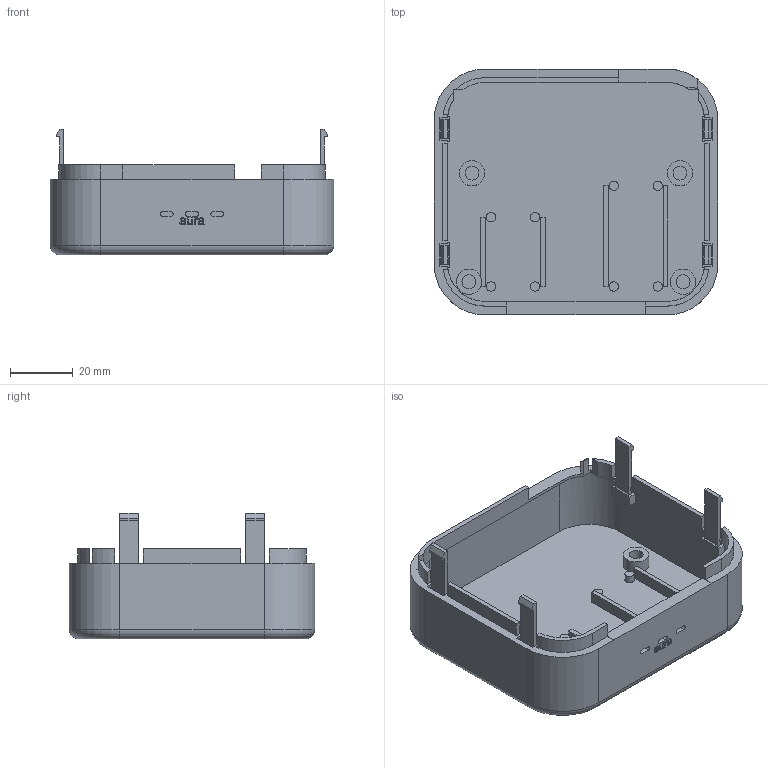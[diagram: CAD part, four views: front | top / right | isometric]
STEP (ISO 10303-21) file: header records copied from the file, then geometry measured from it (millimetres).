
FILE_DESCRIPTION(('Open CASCADE Model'),'2;1');
FILE_NAME('Open CASCADE Shape Model','2026-10-01T12:35:21',('Author'),( 'Open CASCADE'),'Open CASCADE STEP processor 7.8','Open CASCADE 7.8' ,'Unknown');
FILE_SCHEMA(('AUTOMOTIVE_DESIGN { 1 0 10303 214 1 1 1 1 }'));
Length unit declared in the file: millimetre
Products named in the file (2): P02_Snap_base; P02_Snap_base_solid
Assembly tree (1 placements, depth 2):
  P02_Snap_base
    P02_Snap_base_solid
Bounding box: 90 x 78 x 40 mm (x, y, z)
Volume: 37356.6 mm3; surface area: 32806.3 mm2
Topology: 1 solids, 1 shells, 361 faces, 970 edges, 644 vertices
Faces by surface type: plane 209, extrusion 84, cylinder 64, torus 4
Full cylindrical faces by diameter (mm): 3 x8, 4.4 x4, 8 x4, 9.4 x4
Entity records: 24761 total; most frequent: CARTESIAN_POINT 6364, DIRECTION 2944, VECTOR 1959, ORIENTED_EDGE 1940, PCURVE 1940, DEFINITIONAL_REPRESENTATION 1940, LINE 1875, EDGE_CURVE 970
